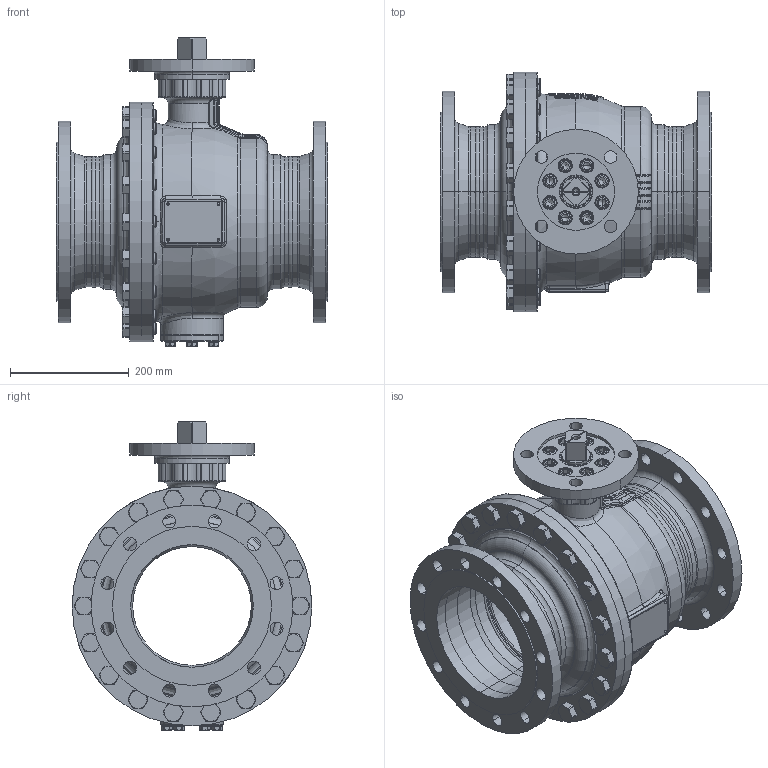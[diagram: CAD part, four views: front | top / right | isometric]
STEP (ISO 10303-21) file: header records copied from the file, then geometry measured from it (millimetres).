
FILE_DESCRIPTION((''),'2;1');
FILE_NAME('KHI-F_200_PN016-F16-4_SW0001','2026-02-05T13:14:31',('fischerkl'),('KLINGER'),'CREO PARAMETRIC BY PTC INC, 2023014','CREO PARAMETRIC BY PTC INC, 2023014','');
FILE_SCHEMA(('CONFIG_CONTROL_DESIGN'));
Products named in the file (1): KHI-F_200_PN016-F16-4_SW0001
Bounding box: 457 x 404 x 519.2 mm (x, y, z)
Volume: 12631296.5 mm3; surface area: 2257484 mm2
Topology: 1 solids, 4 shells, 3808 faces, 9722 edges, 6057 vertices
Faces by surface type: plane 2303, cylinder 714, cone 364, torus 289, bspline 108, sphere 30
Entity records: 148285 total; most frequent: CARTESIAN_POINT 58242, ORIENTED_EDGE 19392, DIRECTION 17889, EDGE_CURVE 9696, AXIS2_PLACEMENT_3D 6350, VERTEX_POINT 6057, VECTOR 5189, LINE 5189
